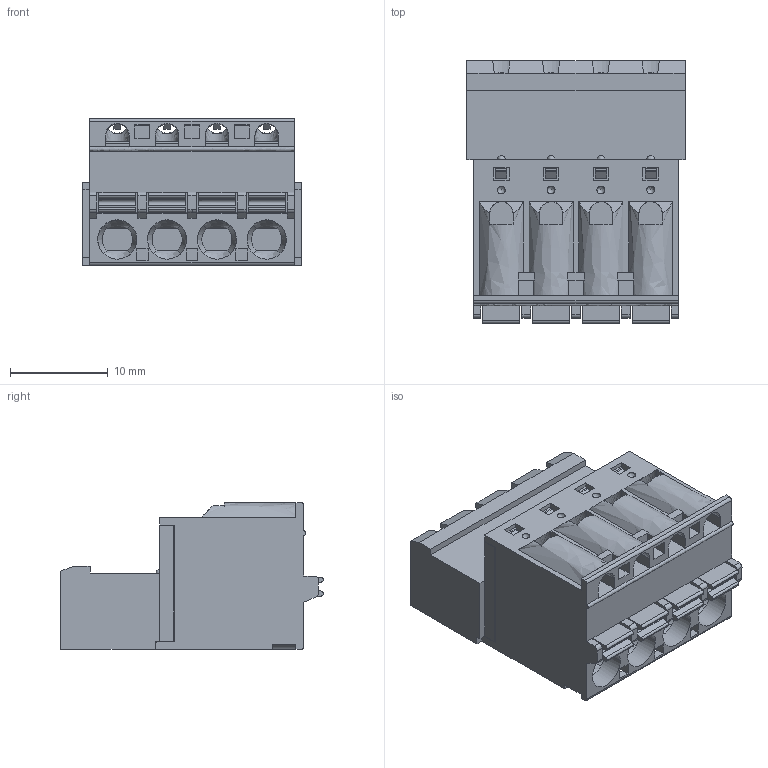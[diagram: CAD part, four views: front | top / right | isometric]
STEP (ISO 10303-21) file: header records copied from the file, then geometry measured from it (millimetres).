
FILE_DESCRIPTION(('STEP AP203'), '1');
FILE_NAME('WJ2EDGKDR-5.08-04P', '', ('UNSPECIFIED'), ('UNSPECIFIED'), 'C3D Converter', 'C3D Toolkit', '');
FILE_SCHEMA(('CONFIG_CONTROL_DESIGN'));
Length unit declared in the file: millimetre
Products named in the file (2): KLR2GKDR-5.08-04P
Assembly tree (1 placements, depth 2):
  KLR2GKDR-5.08-04P
    KLR2GKDR-5.08-04P
Bounding box: 22.32 x 26.8 x 15 mm (x, y, z)
Volume: 4456.5 mm3; surface area: 5298 mm2
Topology: 1 solids, 3 shells, 764 faces, 2203 edges, 1398 vertices
Faces by surface type: plane 602, bspline 162
Entity records: 36736 total; most frequent: CARTESIAN_POINT 12645, ORIENTED_EDGE 4310, DIRECTION 2841, EDGE_CURVE 2155, LINE 1633, VECTOR 1633, VERTEX_POINT 1394, EDGE_LOOP 823
